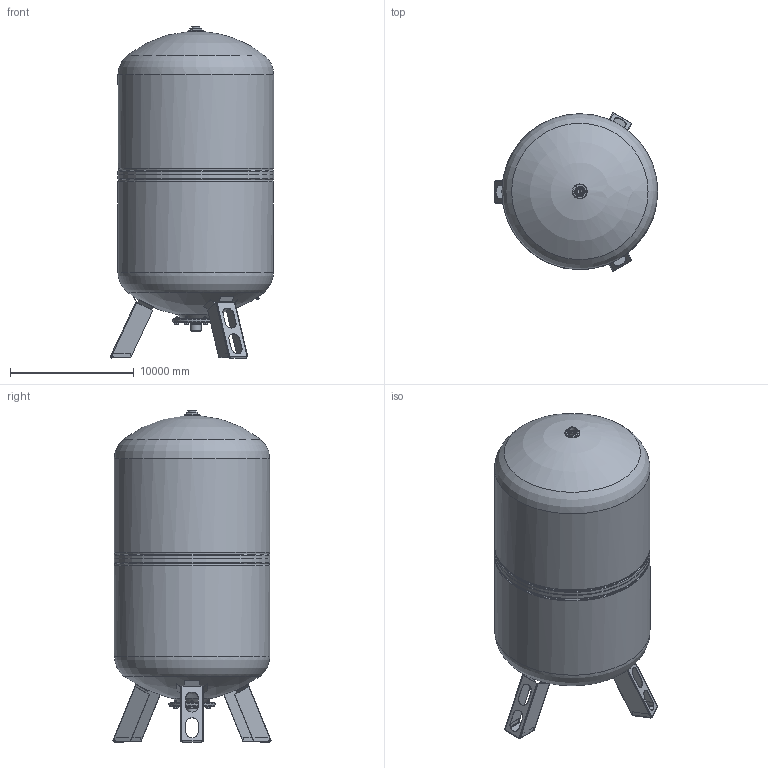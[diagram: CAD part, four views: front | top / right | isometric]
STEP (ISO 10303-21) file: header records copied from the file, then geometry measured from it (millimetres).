
FILE_DESCRIPTION(('STEP AP214'), '1');
FILE_NAME('WAV-150', '', ('UNSPECIFIED'), ('UNSPECIFIED'), 'ASCON STEP Converter 1.3', 'ASCON Math Kernel', '');
FILE_SCHEMA(('AUTOMOTIVE_DESIGN { 1 0 10303 214 3 1 1}'));
Length unit declared in the file: millimetre
Bounding box: 13203.32 x 12788.16 x 26823.54 mm (x, y, z)
Volume: 2548083944669.7 mm3; surface area: 1161551627.4 mm2
Topology: 4 solids, 4 shells, 429 faces, 1195 edges, 811 vertices
Faces by surface type: bspline 260, cylinder 97, cone 43, torus 27, sphere 2
Full cylindrical faces by diameter (mm): 101.6 x8, 139.7 x1, 203.2 x7, 304.8 x3, 355.599 x6, 472.44 x1, 670.56 x1, 688.34 x1, 844.55 x1, 850.9 x1, 1193.8 x1, 1219.2 x1, 3556 x1, 12573 x4
Entity records: 21469 total; most frequent: CARTESIAN_POINT 8026, ORIENTED_EDGE 2208, DIRECTION 1631, EDGE_CURVE 1104, VERTEX_POINT 810, EDGE_LOOP 574, FACE_BOUND 562, AXIS2_PLACEMENT_3D 544
